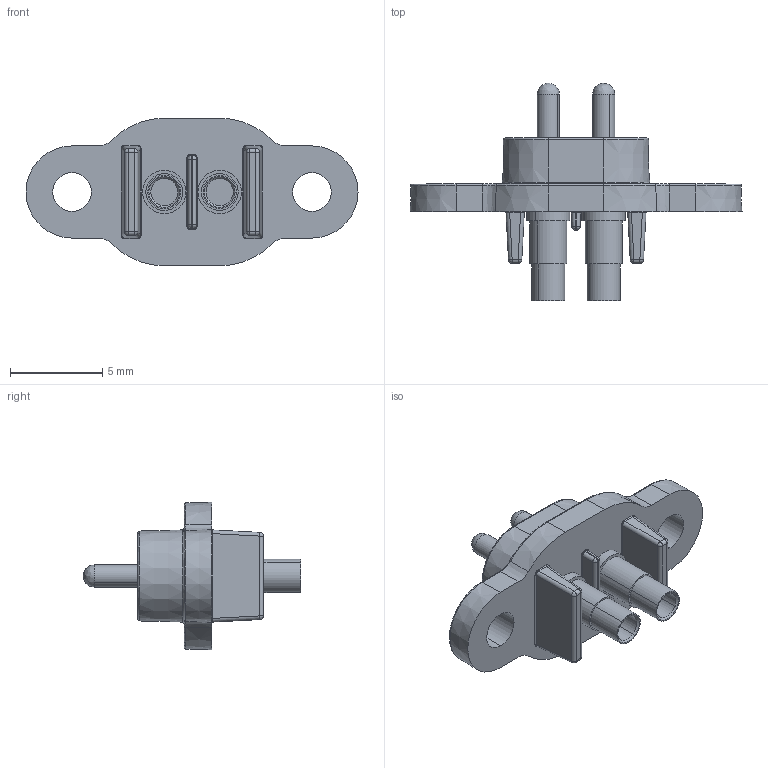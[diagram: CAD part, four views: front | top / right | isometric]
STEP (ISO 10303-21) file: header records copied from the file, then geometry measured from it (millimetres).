
FILE_DESCRIPTION (( 'STEP AP214' ), '1' );
FILE_NAME ('SWIFT DOCK MINI-2-SC.STEP', '2021-07-28T11:16:03', ( '' ), ( '' ), 'SwSTEP 2.0', 'SolidWorks 2021', '' );
FILE_SCHEMA (( 'AUTOMOTIVE_DESIGN' ));
Length unit declared in the file: millimetre
Products named in the file (3): body_2 hole_mini_2; SWIFT DOCK MINI-2-SC; contact_sd_mini_2
Assembly tree (3 placements, depth 2):
  SWIFT DOCK MINI-2-SC
    body_2 hole_mini_2
    contact_sd_mini_2  x2
Bounding box: 18 x 11.8 x 8 mm (x, y, z)
Volume: 277.4 mm3; surface area: 624.1 mm2
Topology: 3 solids, 5 shells, 210 faces, 444 edges, 256 vertices
Faces by surface type: cylinder 90, plane 44, bspline 44, cone 32
Entity records: 7297 total; most frequent: CARTESIAN_POINT 1641, DIRECTION 784, ORIENTED_EDGE 744, EDGE_CURVE 372, AXIS2_PLACEMENT_3D 313, VERTEX_POINT 214, EDGE_LOOP 192, UNCERTAINTY_MEASURE_WITH_UNIT 181
